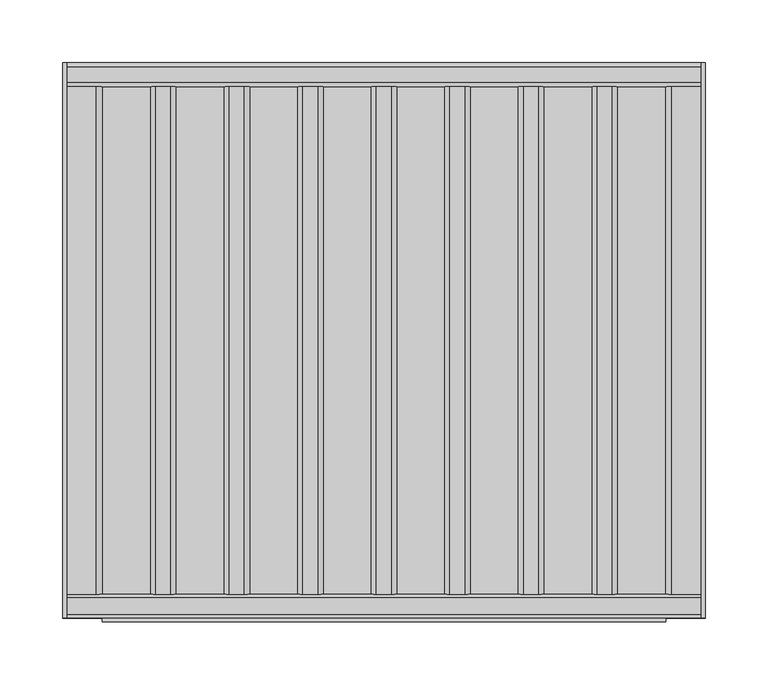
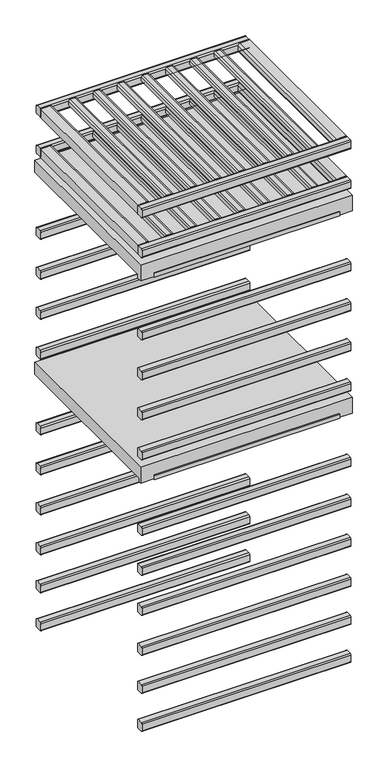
"""IFC4 building model written with IfcOpenShell, lengths in millimetres: proxy geometry, 11503620_USA_KWT2602SF : 36260215_USA_11503620_KWT2602SF."""

from ifc_helpers import new_model, si_unit, point, frame, frame_2d, origin, place, context, project, spatial, polyline, circle_curve, trimmed, segment, composite_curve, outline, extrude, faceted_brep, source, transform, mapped, element, save


def specialty_equipment_dd73f68f(model_context):
    return source(origin(), model_context, "Body", "SolidModel", [
        extrude(outline(composite_curve([segment(polyline([(1593.0, -252.0), (1571.0, -252.0), (1571.0, -229.0)]), True, "CONTINUOUS"), segment(trimmed(circle_curve(frame_2d((1576.0, -229.0)), 5.0), [point((1571.0, -229.0))], [point((1576.0, -224.0))], False, "CARTESIAN"), True, "CONTINUOUS"), segment(polyline([(1576.0, -224.0), (1588.0, -224.0)]), True, "CONTINUOUS"), segment(trimmed(circle_curve(frame_2d((1588.0, -229.0)), 5.0), [point((1588.0, -224.0))], [point((1593.0, -229.0))], False, "CARTESIAN"), True, "CONTINUOUS"), segment(polyline([(1593.0, -229.0), (1593.0, -252.0)]), True, "CONTINUOUS")], self_intersect=False)), frame((0.0, 90.0, 0.0), z_axis=(0.0, 1.0, 0.0), x_axis=(0.0, 0.0, 1.0)), (0.0, 0.0, 1.0), 404.0),
        extrude(outline(composite_curve([segment(polyline([(1589.0, -185.5), (1581.039218, -185.5), (1581.039218, -165.5), (1589.0, -165.5)]), True, "CONTINUOUS"), segment(trimmed(circle_curve(frame_2d((1589.0, -169.5)), 4.0), [point((1589.0, -165.5))], [point((1593.0, -169.5))], False, "CARTESIAN"), True, "CONTINUOUS"), segment(polyline([(1593.0, -169.5), (1593.0, -181.5)]), True, "CONTINUOUS"), segment(trimmed(circle_curve(frame_2d((1589.0, -181.5)), 4.0), [point((1593.0, -181.5))], [point((1589.0, -185.5))], False, "CARTESIAN"), True, "CONTINUOUS")], self_intersect=False)), frame((0.0, 90.0, 0.0), z_axis=(0.0, 1.0, 0.0), x_axis=(0.0, 0.0, 1.0)), (0.0, 0.0, 1.0), 404.0),
        extrude(outline(composite_curve([segment(polyline([(1593.0, 252.0), (1593.0, 229.0)]), True, "CONTINUOUS"), segment(trimmed(circle_curve(frame_2d((1588.0, 229.0)), 5.0), [point((1593.0, 229.0))], [point((1588.0, 224.0))], False, "CARTESIAN"), True, "CONTINUOUS"), segment(polyline([(1588.0, 224.0), (1576.0, 224.0)]), True, "CONTINUOUS"), segment(trimmed(circle_curve(frame_2d((1576.0, 229.0)), 5.0), [point((1576.0, 224.0))], [point((1571.0, 229.0))], False, "CARTESIAN"), True, "CONTINUOUS"), segment(polyline([(1571.0, 229.0), (1571.0, 252.0), (1593.0, 252.0)]), True, "CONTINUOUS")], self_intersect=False)), frame((0.0, 90.0, 0.0), z_axis=(0.0, 1.0, 0.0), x_axis=(0.0, 0.0, 1.0)), (0.0, 0.0, 1.0), 404.0),
        extrude(outline(composite_curve([segment(polyline([(1589.0, -127.0), (1581.039218, -127.0), (1581.039218, -107.0), (1589.0, -107.0)]), True, "CONTINUOUS"), segment(trimmed(circle_curve(frame_2d((1589.0, -111.0)), 4.0), [point((1589.0, -107.0))], [point((1593.0, -111.0))], False, "CARTESIAN"), True, "CONTINUOUS"), segment(polyline([(1593.0, -111.0), (1593.0, -123.0)]), True, "CONTINUOUS"), segment(trimmed(circle_curve(frame_2d((1589.0, -123.0)), 4.0), [point((1593.0, -123.0))], [point((1589.0, -127.0))], False, "CARTESIAN"), True, "CONTINUOUS")], self_intersect=False)), frame((0.0, 90.0, 0.0), z_axis=(0.0, 1.0, 0.0), x_axis=(0.0, 0.0, 1.0)), (0.0, 0.0, 1.0), 404.0),
        extrude(outline(composite_curve([segment(polyline([(1589.0, -68.5), (1581.039218, -68.5), (1581.039218, -48.5), (1589.0, -48.5)]), True, "CONTINUOUS"), segment(trimmed(circle_curve(frame_2d((1589.0, -52.5)), 4.0), [point((1589.0, -48.5))], [point((1593.0, -52.5))], False, "CARTESIAN"), True, "CONTINUOUS"), segment(polyline([(1593.0, -52.5), (1593.0, -64.5)]), True, "CONTINUOUS"), segment(trimmed(circle_curve(frame_2d((1589.0, -64.5)), 4.0), [point((1593.0, -64.5))], [point((1589.0, -68.5))], False, "CARTESIAN"), True, "CONTINUOUS")], self_intersect=False)), frame((0.0, 90.0, 0.0), z_axis=(0.0, 1.0, 0.0), x_axis=(0.0, 0.0, 1.0)), (0.0, 0.0, 1.0), 404.0),
        extrude(outline(composite_curve([segment(polyline([(1589.0, -10.0), (1581.039218, -10.0), (1581.039218, 10.0), (1589.0, 10.0)]), True, "CONTINUOUS"), segment(trimmed(circle_curve(frame_2d((1589.0, 6.0)), 4.0), [point((1589.0, 10.0))], [point((1593.0, 6.0))], False, "CARTESIAN"), True, "CONTINUOUS"), segment(polyline([(1593.0, 6.0), (1593.0, -6.0)]), True, "CONTINUOUS"), segment(trimmed(circle_curve(frame_2d((1589.0, -6.0)), 4.0), [point((1593.0, -6.0))], [point((1589.0, -10.0))], False, "CARTESIAN"), True, "CONTINUOUS")], self_intersect=False)), frame((0.0, 90.0, 0.0), z_axis=(0.0, 1.0, 0.0), x_axis=(0.0, 0.0, 1.0)), (0.0, 0.0, 1.0), 404.0),
        extrude(outline(composite_curve([segment(polyline([(1589.0, 48.5), (1581.039218, 48.5), (1581.039218, 68.5), (1589.0, 68.5)]), True, "CONTINUOUS"), segment(trimmed(circle_curve(frame_2d((1589.0, 64.5)), 4.0), [point((1589.0, 68.5))], [point((1593.0, 64.5))], False, "CARTESIAN"), True, "CONTINUOUS"), segment(polyline([(1593.0, 64.5), (1593.0, 52.5)]), True, "CONTINUOUS"), segment(trimmed(circle_curve(frame_2d((1589.0, 52.5)), 4.0), [point((1593.0, 52.5))], [point((1589.0, 48.5))], False, "CARTESIAN"), True, "CONTINUOUS")], self_intersect=False)), frame((0.0, 90.0, 0.0), z_axis=(0.0, 1.0, 0.0), x_axis=(0.0, 0.0, 1.0)), (0.0, 0.0, 1.0), 404.0),
        extrude(outline(composite_curve([segment(polyline([(1589.0, 107.0), (1581.039218, 107.0), (1581.039218, 127.0), (1589.0, 127.0)]), True, "CONTINUOUS"), segment(trimmed(circle_curve(frame_2d((1589.0, 123.0)), 4.0), [point((1589.0, 127.0))], [point((1593.0, 123.0))], False, "CARTESIAN"), True, "CONTINUOUS"), segment(polyline([(1593.0, 123.0), (1593.0, 111.0)]), True, "CONTINUOUS"), segment(trimmed(circle_curve(frame_2d((1589.0, 111.0)), 4.0), [point((1593.0, 111.0))], [point((1589.0, 107.0))], False, "CARTESIAN"), True, "CONTINUOUS")], self_intersect=False)), frame((0.0, 90.0, 0.0), z_axis=(0.0, 1.0, 0.0), x_axis=(0.0, 0.0, 1.0)), (0.0, 0.0, 1.0), 404.0),
        extrude(outline(composite_curve([segment(polyline([(1589.0, 165.5), (1581.039218, 165.5), (1581.039218, 185.5), (1589.0, 185.5)]), True, "CONTINUOUS"), segment(trimmed(circle_curve(frame_2d((1589.0, 181.5)), 4.0), [point((1589.0, 185.5))], [point((1593.0, 181.5))], False, "CARTESIAN"), True, "CONTINUOUS"), segment(polyline([(1593.0, 181.5), (1593.0, 169.5)]), True, "CONTINUOUS"), segment(trimmed(circle_curve(frame_2d((1589.0, 169.5)), 4.0), [point((1593.0, 169.5))], [point((1589.0, 165.5))], False, "CARTESIAN"), True, "CONTINUOUS")], self_intersect=False)), frame((0.0, 90.0, 0.0), z_axis=(0.0, 1.0, 0.0), x_axis=(0.0, 0.0, 1.0)), (0.0, 0.0, 1.0), 404.0),
        faceted_brep([(255.5, 76.0, 998.0), (255.5, 76.0, 1008.0), (255.5, 513.0, 1008.0), (255.5, 513.0, 1038.0), (255.5, 71.0, 1038.0), (255.5, 71.0, 998.0), (-255.5, 71.0, 998.0), (-255.5, 71.0, 1038.0), (-255.5, 513.0, 1038.0), (-255.5, 513.0, 1008.0), (-255.5, 76.0, 1008.0), (-255.5, 76.0, 998.0), (224.0, 71.0, 998.0), (224.0, 68.0, 998.0), (-224.0, 68.0, 998.0), (-224.0, 71.0, 998.0), (-224.0, 71.0, 1008.0), (224.0, 71.0, 1008.0), (-224.0, 68.0, 1008.0), (224.0, 68.0, 1008.0)], [[[0, 1, 2, 3, 4, 5]], [[6, 7, 8, 9, 10, 11]], [[11, 0, 5, 12, 13, 14, 15, 6]], [[1, 0, 11, 10]], [[2, 1, 10, 9]], [[3, 2, 9, 8]], [[7, 4, 3, 8]], [[6, 15, 16, 17, 12, 5, 4, 7]], [[17, 16, 18, 19]], [[14, 13, 19, 18]], [[16, 15, 14, 18]], [[12, 17, 19, 13]]]),
        faceted_brep([(255.5, 83.0, 1514.0), (255.5, 83.0, 1524.0), (255.5, 513.0, 1524.0), (255.5, 513.0, 1554.0), (255.5, 71.0, 1554.0), (255.5, 71.0, 1514.0), (-255.5, 71.0, 1514.0), (-255.5, 71.0, 1554.0), (-255.5, 513.0, 1554.0), (-255.5, 513.0, 1524.0), (-255.5, 83.0, 1524.0), (-255.5, 83.0, 1514.0), (224.0, 71.0, 1524.0), (224.0, 71.0, 1514.0), (-224.0, 71.0, 1514.0), (-224.0, 71.0, 1524.0), (224.0, 68.0, 1514.0), (-224.0, 68.0, 1514.0), (-224.0, 68.0, 1524.0), (224.0, 68.0, 1524.0)], [[[0, 1, 2, 3, 4, 5]], [[6, 7, 8, 9, 10, 11]], [[12, 13, 5, 4, 7, 6, 14, 15]], [[11, 0, 5, 13, 16, 17, 14, 6]], [[1, 0, 11, 10]], [[2, 1, 10, 9]], [[3, 2, 9, 8]], [[7, 4, 3, 8]], [[12, 15, 18, 19]], [[17, 16, 19, 18]], [[15, 14, 17, 18]], [[13, 12, 19, 16]]]),
        extrude(outline(composite_curve([segment(polyline([(74.0, 384.0), (87.0, 384.0)]), True, "CONTINUOUS"), segment(trimmed(circle_curve(frame_2d((87.0, 381.0)), 3.0), [point((87.0, 384.0))], [point((90.0, 381.0))], False, "CARTESIAN"), True, "CONTINUOUS"), segment(polyline([(90.0, 381.0), (90.0, 365.0)]), True, "CONTINUOUS"), segment(trimmed(circle_curve(frame_2d((87.0, 365.0)), 3.0), [point((90.0, 365.0))], [point((87.0, 362.0))], False, "CARTESIAN"), True, "CONTINUOUS"), segment(polyline([(87.0, 362.0), (74.0, 362.0)]), True, "CONTINUOUS"), segment(trimmed(circle_curve(frame_2d((74.0, 365.0)), 3.0), [point((74.0, 362.0))], [point((71.0, 365.0))], False, "CARTESIAN"), True, "CONTINUOUS"), segment(polyline([(71.0, 365.0), (71.0, 381.0)]), True, "CONTINUOUS"), segment(trimmed(circle_curve(frame_2d((74.0, 381.0)), 3.0), [point((71.0, 381.0))], [point((74.0, 384.0))], False, "CARTESIAN"), True, "CONTINUOUS")], self_intersect=False)), frame((-252.0, 0.0, 0.0), z_axis=(1.0, 0.0, 0.0), x_axis=(0.0, 1.0, 0.0)), (0.0, 0.0, 1.0), 504.0),
        extrude(outline(composite_curve([segment(polyline([(497.0, 384.0), (510.0, 384.0)]), True, "CONTINUOUS"), segment(trimmed(circle_curve(frame_2d((510.0, 381.0)), 3.0), [point((510.0, 384.0))], [point((513.0, 381.0))], False, "CARTESIAN"), True, "CONTINUOUS"), segment(polyline([(513.0, 381.0), (513.0, 365.0)]), True, "CONTINUOUS"), segment(trimmed(circle_curve(frame_2d((510.0, 365.0)), 3.0), [point((513.0, 365.0))], [point((510.0, 362.0))], False, "CARTESIAN"), True, "CONTINUOUS"), segment(polyline([(510.0, 362.0), (497.0, 362.0)]), True, "CONTINUOUS"), segment(trimmed(circle_curve(frame_2d((497.0, 365.0)), 3.0), [point((497.0, 362.0))], [point((494.0, 365.0))], False, "CARTESIAN"), True, "CONTINUOUS"), segment(polyline([(494.0, 365.0), (494.0, 381.0)]), True, "CONTINUOUS"), segment(trimmed(circle_curve(frame_2d((497.0, 381.0)), 3.0), [point((494.0, 381.0))], [point((497.0, 384.0))], False, "CARTESIAN"), True, "CONTINUOUS")], self_intersect=False)), frame((-252.0, 0.0, 0.0), z_axis=(1.0, 0.0, 0.0), x_axis=(0.0, 1.0, 0.0)), (0.0, 0.0, 1.0), 504.0),
        extrude(outline(composite_curve([segment(polyline([(74.0, 481.0), (87.0, 481.0)]), True, "CONTINUOUS"), segment(trimmed(circle_curve(frame_2d((87.0, 478.0)), 3.0), [point((87.0, 481.0))], [point((90.0, 478.0))], False, "CARTESIAN"), True, "CONTINUOUS"), segment(polyline([(90.0, 478.0), (90.0, 462.0)]), True, "CONTINUOUS"), segment(trimmed(circle_curve(frame_2d((87.0, 462.0)), 3.0), [point((90.0, 462.0))], [point((87.0, 459.0))], False, "CARTESIAN"), True, "CONTINUOUS"), segment(polyline([(87.0, 459.0), (74.0, 459.0)]), True, "CONTINUOUS"), segment(trimmed(circle_curve(frame_2d((74.0, 462.0)), 3.0), [point((74.0, 459.0))], [point((71.0, 462.0))], False, "CARTESIAN"), True, "CONTINUOUS"), segment(polyline([(71.0, 462.0), (71.0, 478.0)]), True, "CONTINUOUS"), segment(trimmed(circle_curve(frame_2d((74.0, 478.0)), 3.0), [point((71.0, 478.0))], [point((74.0, 481.0))], False, "CARTESIAN"), True, "CONTINUOUS")], self_intersect=False)), frame((-252.0, 0.0, 0.0), z_axis=(1.0, 0.0, 0.0), x_axis=(0.0, 1.0, 0.0)), (0.0, 0.0, 1.0), 504.0),
        extrude(outline(composite_curve([segment(polyline([(497.0, 481.0), (510.0, 481.0)]), True, "CONTINUOUS"), segment(trimmed(circle_curve(frame_2d((510.0, 478.0)), 3.0), [point((510.0, 481.0))], [point((513.0, 478.0))], False, "CARTESIAN"), True, "CONTINUOUS"), segment(polyline([(513.0, 478.0), (513.0, 462.0)]), True, "CONTINUOUS"), segment(trimmed(circle_curve(frame_2d((510.0, 462.0)), 3.0), [point((513.0, 462.0))], [point((510.0, 459.0))], False, "CARTESIAN"), True, "CONTINUOUS"), segment(polyline([(510.0, 459.0), (497.0, 459.0)]), True, "CONTINUOUS"), segment(trimmed(circle_curve(frame_2d((497.0, 462.0)), 3.0), [point((497.0, 459.0))], [point((494.0, 462.0))], False, "CARTESIAN"), True, "CONTINUOUS"), segment(polyline([(494.0, 462.0), (494.0, 478.0)]), True, "CONTINUOUS"), segment(trimmed(circle_curve(frame_2d((497.0, 478.0)), 3.0), [point((494.0, 478.0))], [point((497.0, 481.0))], False, "CARTESIAN"), True, "CONTINUOUS")], self_intersect=False)), frame((-252.0, 0.0, 0.0), z_axis=(1.0, 0.0, 0.0), x_axis=(0.0, 1.0, 0.0)), (0.0, 0.0, 1.0), 504.0),
        extrude(outline(composite_curve([segment(polyline([(74.0, 578.0), (87.0, 578.0)]), True, "CONTINUOUS"), segment(trimmed(circle_curve(frame_2d((87.0, 575.0)), 3.0), [point((87.0, 578.0))], [point((90.0, 575.0))], False, "CARTESIAN"), True, "CONTINUOUS"), segment(polyline([(90.0, 575.0), (90.0, 559.0)]), True, "CONTINUOUS"), segment(trimmed(circle_curve(frame_2d((87.0, 559.0)), 3.0), [point((90.0, 559.0))], [point((87.0, 556.0))], False, "CARTESIAN"), True, "CONTINUOUS"), segment(polyline([(87.0, 556.0), (74.0, 556.0)]), True, "CONTINUOUS"), segment(trimmed(circle_curve(frame_2d((74.0, 559.0)), 3.0), [point((74.0, 556.0))], [point((71.0, 559.0))], False, "CARTESIAN"), True, "CONTINUOUS"), segment(polyline([(71.0, 559.0), (71.0, 575.0)]), True, "CONTINUOUS"), segment(trimmed(circle_curve(frame_2d((74.0, 575.0)), 3.0), [point((71.0, 575.0))], [point((74.0, 578.0))], False, "CARTESIAN"), True, "CONTINUOUS")], self_intersect=False)), frame((-252.0, 0.0, 0.0), z_axis=(1.0, 0.0, 0.0), x_axis=(0.0, 1.0, 0.0)), (0.0, 0.0, 1.0), 504.0),
        extrude(outline(composite_curve([segment(polyline([(497.0, 578.0), (510.0, 578.0)]), True, "CONTINUOUS"), segment(trimmed(circle_curve(frame_2d((510.0, 575.0)), 3.0), [point((510.0, 578.0))], [point((513.0, 575.0))], False, "CARTESIAN"), True, "CONTINUOUS"), segment(polyline([(513.0, 575.0), (513.0, 559.0)]), True, "CONTINUOUS"), segment(trimmed(circle_curve(frame_2d((510.0, 559.0)), 3.0), [point((513.0, 559.0))], [point((510.0, 556.0))], False, "CARTESIAN"), True, "CONTINUOUS"), segment(polyline([(510.0, 556.0), (497.0, 556.0)]), True, "CONTINUOUS"), segment(trimmed(circle_curve(frame_2d((497.0, 559.0)), 3.0), [point((497.0, 556.0))], [point((494.0, 559.0))], False, "CARTESIAN"), True, "CONTINUOUS"), segment(polyline([(494.0, 559.0), (494.0, 575.0)]), True, "CONTINUOUS"), segment(trimmed(circle_curve(frame_2d((497.0, 575.0)), 3.0), [point((494.0, 575.0))], [point((497.0, 578.0))], False, "CARTESIAN"), True, "CONTINUOUS")], self_intersect=False)), frame((-252.0, 0.0, 0.0), z_axis=(1.0, 0.0, 0.0), x_axis=(0.0, 1.0, 0.0)), (0.0, 0.0, 1.0), 504.0),
        extrude(outline(composite_curve([segment(polyline([(74.0, 680.0), (87.0, 680.0)]), True, "CONTINUOUS"), segment(trimmed(circle_curve(frame_2d((87.0, 677.0)), 3.0), [point((87.0, 680.0))], [point((90.0, 677.0))], False, "CARTESIAN"), True, "CONTINUOUS"), segment(polyline([(90.0, 677.0), (90.0, 661.0)]), True, "CONTINUOUS"), segment(trimmed(circle_curve(frame_2d((87.0, 661.0)), 3.0), [point((90.0, 661.0))], [point((87.0, 658.0))], False, "CARTESIAN"), True, "CONTINUOUS"), segment(polyline([(87.0, 658.0), (74.0, 658.0)]), True, "CONTINUOUS"), segment(trimmed(circle_curve(frame_2d((74.0, 661.0)), 3.0), [point((74.0, 658.0))], [point((71.0, 661.0))], False, "CARTESIAN"), True, "CONTINUOUS"), segment(polyline([(71.0, 661.0), (71.0, 677.0)]), True, "CONTINUOUS"), segment(trimmed(circle_curve(frame_2d((74.0, 677.0)), 3.0), [point((71.0, 677.0))], [point((74.0, 680.0))], False, "CARTESIAN"), True, "CONTINUOUS")], self_intersect=False)), frame((-252.0, 0.0, 0.0), z_axis=(1.0, 0.0, 0.0), x_axis=(0.0, 1.0, 0.0)), (0.0, 0.0, 1.0), 504.0),
        extrude(outline(composite_curve([segment(polyline([(497.0, 680.0), (510.0, 680.0)]), True, "CONTINUOUS"), segment(trimmed(circle_curve(frame_2d((510.0, 677.0)), 3.0), [point((510.0, 680.0))], [point((513.0, 677.0))], False, "CARTESIAN"), True, "CONTINUOUS"), segment(polyline([(513.0, 677.0), (513.0, 661.0)]), True, "CONTINUOUS"), segment(trimmed(circle_curve(frame_2d((510.0, 661.0)), 3.0), [point((513.0, 661.0))], [point((510.0, 658.0))], False, "CARTESIAN"), True, "CONTINUOUS"), segment(polyline([(510.0, 658.0), (497.0, 658.0)]), True, "CONTINUOUS"), segment(trimmed(circle_curve(frame_2d((497.0, 661.0)), 3.0), [point((497.0, 658.0))], [point((494.0, 661.0))], False, "CARTESIAN"), True, "CONTINUOUS"), segment(polyline([(494.0, 661.0), (494.0, 677.0)]), True, "CONTINUOUS"), segment(trimmed(circle_curve(frame_2d((497.0, 677.0)), 3.0), [point((494.0, 677.0))], [point((497.0, 680.0))], False, "CARTESIAN"), True, "CONTINUOUS")], self_intersect=False)), frame((-252.0, 0.0, 0.0), z_axis=(1.0, 0.0, 0.0), x_axis=(0.0, 1.0, 0.0)), (0.0, 0.0, 1.0), 504.0),
        extrude(outline(composite_curve([segment(polyline([(74.0, 782.0), (87.0, 782.0)]), True, "CONTINUOUS"), segment(trimmed(circle_curve(frame_2d((87.0, 779.0)), 3.0), [point((87.0, 782.0))], [point((90.0, 779.0))], False, "CARTESIAN"), True, "CONTINUOUS"), segment(polyline([(90.0, 779.0), (90.0, 763.0)]), True, "CONTINUOUS"), segment(trimmed(circle_curve(frame_2d((87.0, 763.0)), 3.0), [point((90.0, 763.0))], [point((87.0, 760.0))], False, "CARTESIAN"), True, "CONTINUOUS"), segment(polyline([(87.0, 760.0), (74.0, 760.0)]), True, "CONTINUOUS"), segment(trimmed(circle_curve(frame_2d((74.0, 763.0)), 3.0), [point((74.0, 760.0))], [point((71.0, 763.0))], False, "CARTESIAN"), True, "CONTINUOUS"), segment(polyline([(71.0, 763.0), (71.0, 779.0)]), True, "CONTINUOUS"), segment(trimmed(circle_curve(frame_2d((74.0, 779.0)), 3.0), [point((71.0, 779.0))], [point((74.0, 782.0))], False, "CARTESIAN"), True, "CONTINUOUS")], self_intersect=False)), frame((-252.0, 0.0, 0.0), z_axis=(1.0, 0.0, 0.0), x_axis=(0.0, 1.0, 0.0)), (0.0, 0.0, 1.0), 504.0),
        extrude(outline(composite_curve([segment(polyline([(497.0, 782.0), (510.0, 782.0)]), True, "CONTINUOUS"), segment(trimmed(circle_curve(frame_2d((510.0, 779.0)), 3.0), [point((510.0, 782.0))], [point((513.0, 779.0))], False, "CARTESIAN"), True, "CONTINUOUS"), segment(polyline([(513.0, 779.0), (513.0, 763.0)]), True, "CONTINUOUS"), segment(trimmed(circle_curve(frame_2d((510.0, 763.0)), 3.0), [point((513.0, 763.0))], [point((510.0, 760.0))], False, "CARTESIAN"), True, "CONTINUOUS"), segment(polyline([(510.0, 760.0), (497.0, 760.0)]), True, "CONTINUOUS"), segment(trimmed(circle_curve(frame_2d((497.0, 763.0)), 3.0), [point((497.0, 760.0))], [point((494.0, 763.0))], False, "CARTESIAN"), True, "CONTINUOUS"), segment(polyline([(494.0, 763.0), (494.0, 779.0)]), True, "CONTINUOUS"), segment(trimmed(circle_curve(frame_2d((497.0, 779.0)), 3.0), [point((494.0, 779.0))], [point((497.0, 782.0))], False, "CARTESIAN"), True, "CONTINUOUS")], self_intersect=False)), frame((-252.0, 0.0, 0.0), z_axis=(1.0, 0.0, 0.0), x_axis=(0.0, 1.0, 0.0)), (0.0, 0.0, 1.0), 504.0),
        extrude(outline(composite_curve([segment(polyline([(74.0, 884.0), (87.0, 884.0)]), True, "CONTINUOUS"), segment(trimmed(circle_curve(frame_2d((87.0, 881.0)), 3.0), [point((87.0, 884.0))], [point((90.0, 881.0))], False, "CARTESIAN"), True, "CONTINUOUS"), segment(polyline([(90.0, 881.0), (90.0, 865.0)]), True, "CONTINUOUS"), segment(trimmed(circle_curve(frame_2d((87.0, 865.0)), 3.0), [point((90.0, 865.0))], [point((87.0, 862.0))], False, "CARTESIAN"), True, "CONTINUOUS"), segment(polyline([(87.0, 862.0), (74.0, 862.0)]), True, "CONTINUOUS"), segment(trimmed(circle_curve(frame_2d((74.0, 865.0)), 3.0), [point((74.0, 862.0))], [point((71.0, 865.0))], False, "CARTESIAN"), True, "CONTINUOUS"), segment(polyline([(71.0, 865.0), (71.0, 881.0)]), True, "CONTINUOUS"), segment(trimmed(circle_curve(frame_2d((74.0, 881.0)), 3.0), [point((71.0, 881.0))], [point((74.0, 884.0))], False, "CARTESIAN"), True, "CONTINUOUS")], self_intersect=False)), frame((-252.0, 0.0, 0.0), z_axis=(1.0, 0.0, 0.0), x_axis=(0.0, 1.0, 0.0)), (0.0, 0.0, 1.0), 504.0),
        extrude(outline(composite_curve([segment(polyline([(497.0, 884.0), (510.0, 884.0)]), True, "CONTINUOUS"), segment(trimmed(circle_curve(frame_2d((510.0, 881.0)), 3.0), [point((510.0, 884.0))], [point((513.0, 881.0))], False, "CARTESIAN"), True, "CONTINUOUS"), segment(polyline([(513.0, 881.0), (513.0, 865.0)]), True, "CONTINUOUS"), segment(trimmed(circle_curve(frame_2d((510.0, 865.0)), 3.0), [point((513.0, 865.0))], [point((510.0, 862.0))], False, "CARTESIAN"), True, "CONTINUOUS"), segment(polyline([(510.0, 862.0), (497.0, 862.0)]), True, "CONTINUOUS"), segment(trimmed(circle_curve(frame_2d((497.0, 865.0)), 3.0), [point((497.0, 862.0))], [point((494.0, 865.0))], False, "CARTESIAN"), True, "CONTINUOUS"), segment(polyline([(494.0, 865.0), (494.0, 881.0)]), True, "CONTINUOUS"), segment(trimmed(circle_curve(frame_2d((497.0, 881.0)), 3.0), [point((494.0, 881.0))], [point((497.0, 884.0))], False, "CARTESIAN"), True, "CONTINUOUS")], self_intersect=False)), frame((-252.0, 0.0, 0.0), z_axis=(1.0, 0.0, 0.0), x_axis=(0.0, 1.0, 0.0)), (0.0, 0.0, 1.0), 504.0),
        extrude(outline(composite_curve([segment(polyline([(74.0, 1077.0), (87.0, 1077.0)]), True, "CONTINUOUS"), segment(trimmed(circle_curve(frame_2d((87.0, 1074.0)), 3.0), [point((87.0, 1077.0))], [point((90.0, 1074.0))], False, "CARTESIAN"), True, "CONTINUOUS"), segment(polyline([(90.0, 1074.0), (90.0, 1058.0)]), True, "CONTINUOUS"), segment(trimmed(circle_curve(frame_2d((87.0, 1058.0)), 3.0), [point((90.0, 1058.0))], [point((87.0, 1055.0))], False, "CARTESIAN"), True, "CONTINUOUS"), segment(polyline([(87.0, 1055.0), (74.0, 1055.0)]), True, "CONTINUOUS"), segment(trimmed(circle_curve(frame_2d((74.0, 1058.0)), 3.0), [point((74.0, 1055.0))], [point((71.0, 1058.0))], False, "CARTESIAN"), True, "CONTINUOUS"), segment(polyline([(71.0, 1058.0), (71.0, 1074.0)]), True, "CONTINUOUS"), segment(trimmed(circle_curve(frame_2d((74.0, 1074.0)), 3.0), [point((71.0, 1074.0))], [point((74.0, 1077.0))], False, "CARTESIAN"), True, "CONTINUOUS")], self_intersect=False)), frame((-252.0, 0.0, 0.0), z_axis=(1.0, 0.0, 0.0), x_axis=(0.0, 1.0, 0.0)), (0.0, 0.0, 1.0), 504.0),
        extrude(outline(composite_curve([segment(polyline([(497.0, 1077.0), (510.0, 1077.0)]), True, "CONTINUOUS"), segment(trimmed(circle_curve(frame_2d((510.0, 1074.0)), 3.0), [point((510.0, 1077.0))], [point((513.0, 1074.0))], False, "CARTESIAN"), True, "CONTINUOUS"), segment(polyline([(513.0, 1074.0), (513.0, 1058.0)]), True, "CONTINUOUS"), segment(trimmed(circle_curve(frame_2d((510.0, 1058.0)), 3.0), [point((513.0, 1058.0))], [point((510.0, 1055.0))], False, "CARTESIAN"), True, "CONTINUOUS"), segment(polyline([(510.0, 1055.0), (497.0, 1055.0)]), True, "CONTINUOUS"), segment(trimmed(circle_curve(frame_2d((497.0, 1058.0)), 3.0), [point((497.0, 1055.0))], [point((494.0, 1058.0))], False, "CARTESIAN"), True, "CONTINUOUS"), segment(polyline([(494.0, 1058.0), (494.0, 1074.0)]), True, "CONTINUOUS"), segment(trimmed(circle_curve(frame_2d((497.0, 1074.0)), 3.0), [point((494.0, 1074.0))], [point((497.0, 1077.0))], False, "CARTESIAN"), True, "CONTINUOUS")], self_intersect=False)), frame((-252.0, 0.0, 0.0), z_axis=(1.0, 0.0, 0.0), x_axis=(0.0, 1.0, 0.0)), (0.0, 0.0, 1.0), 504.0),
        extrude(outline(composite_curve([segment(polyline([(74.0, 1179.0), (87.0, 1179.0)]), True, "CONTINUOUS"), segment(trimmed(circle_curve(frame_2d((87.0, 1176.0)), 3.0), [point((87.0, 1179.0))], [point((90.0, 1176.0))], False, "CARTESIAN"), True, "CONTINUOUS"), segment(polyline([(90.0, 1176.0), (90.0, 1160.0)]), True, "CONTINUOUS"), segment(trimmed(circle_curve(frame_2d((87.0, 1160.0)), 3.0), [point((90.0, 1160.0))], [point((87.0, 1157.0))], False, "CARTESIAN"), True, "CONTINUOUS"), segment(polyline([(87.0, 1157.0), (74.0, 1157.0)]), True, "CONTINUOUS"), segment(trimmed(circle_curve(frame_2d((74.0, 1160.0)), 3.0), [point((74.0, 1157.0))], [point((71.0, 1160.0))], False, "CARTESIAN"), True, "CONTINUOUS"), segment(polyline([(71.0, 1160.0), (71.0, 1176.0)]), True, "CONTINUOUS"), segment(trimmed(circle_curve(frame_2d((74.0, 1176.0)), 3.0), [point((71.0, 1176.0))], [point((74.0, 1179.0))], False, "CARTESIAN"), True, "CONTINUOUS")], self_intersect=False)), frame((-252.0, 0.0, 0.0), z_axis=(1.0, 0.0, 0.0), x_axis=(0.0, 1.0, 0.0)), (0.0, 0.0, 1.0), 504.0),
        extrude(outline(composite_curve([segment(polyline([(497.0, 1179.0), (510.0, 1179.0)]), True, "CONTINUOUS"), segment(trimmed(circle_curve(frame_2d((510.0, 1176.0)), 3.0), [point((510.0, 1179.0))], [point((513.0, 1176.0))], False, "CARTESIAN"), True, "CONTINUOUS"), segment(polyline([(513.0, 1176.0), (513.0, 1160.0)]), True, "CONTINUOUS"), segment(trimmed(circle_curve(frame_2d((510.0, 1160.0)), 3.0), [point((513.0, 1160.0))], [point((510.0, 1157.0))], False, "CARTESIAN"), True, "CONTINUOUS"), segment(polyline([(510.0, 1157.0), (497.0, 1157.0)]), True, "CONTINUOUS"), segment(trimmed(circle_curve(frame_2d((497.0, 1160.0)), 3.0), [point((497.0, 1157.0))], [point((494.0, 1160.0))], False, "CARTESIAN"), True, "CONTINUOUS"), segment(polyline([(494.0, 1160.0), (494.0, 1176.0)]), True, "CONTINUOUS"), segment(trimmed(circle_curve(frame_2d((497.0, 1176.0)), 3.0), [point((494.0, 1176.0))], [point((497.0, 1179.0))], False, "CARTESIAN"), True, "CONTINUOUS")], self_intersect=False)), frame((-252.0, 0.0, 0.0), z_axis=(1.0, 0.0, 0.0), x_axis=(0.0, 1.0, 0.0)), (0.0, 0.0, 1.0), 504.0),
        extrude(outline(composite_curve([segment(polyline([(74.0, 1281.0), (87.0, 1281.0)]), True, "CONTINUOUS"), segment(trimmed(circle_curve(frame_2d((87.0, 1278.0)), 3.0), [point((87.0, 1281.0))], [point((90.0, 1278.0))], False, "CARTESIAN"), True, "CONTINUOUS"), segment(polyline([(90.0, 1278.0), (90.0, 1262.0)]), True, "CONTINUOUS"), segment(trimmed(circle_curve(frame_2d((87.0, 1262.0)), 3.0), [point((90.0, 1262.0))], [point((87.0, 1259.0))], False, "CARTESIAN"), True, "CONTINUOUS"), segment(polyline([(87.0, 1259.0), (74.0, 1259.0)]), True, "CONTINUOUS"), segment(trimmed(circle_curve(frame_2d((74.0, 1262.0)), 3.0), [point((74.0, 1259.0))], [point((71.0, 1262.0))], False, "CARTESIAN"), True, "CONTINUOUS"), segment(polyline([(71.0, 1262.0), (71.0, 1278.0)]), True, "CONTINUOUS"), segment(trimmed(circle_curve(frame_2d((74.0, 1278.0)), 3.0), [point((71.0, 1278.0))], [point((74.0, 1281.0))], False, "CARTESIAN"), True, "CONTINUOUS")], self_intersect=False)), frame((-252.0, 0.0, 0.0), z_axis=(1.0, 0.0, 0.0), x_axis=(0.0, 1.0, 0.0)), (0.0, 0.0, 1.0), 504.0),
        extrude(outline(composite_curve([segment(polyline([(497.0, 1281.0), (510.0, 1281.0)]), True, "CONTINUOUS"), segment(trimmed(circle_curve(frame_2d((510.0, 1278.0)), 3.0), [point((510.0, 1281.0))], [point((513.0, 1278.0))], False, "CARTESIAN"), True, "CONTINUOUS"), segment(polyline([(513.0, 1278.0), (513.0, 1262.0)]), True, "CONTINUOUS"), segment(trimmed(circle_curve(frame_2d((510.0, 1262.0)), 3.0), [point((513.0, 1262.0))], [point((510.0, 1259.0))], False, "CARTESIAN"), True, "CONTINUOUS"), segment(polyline([(510.0, 1259.0), (497.0, 1259.0)]), True, "CONTINUOUS"), segment(trimmed(circle_curve(frame_2d((497.0, 1262.0)), 3.0), [point((497.0, 1259.0))], [point((494.0, 1262.0))], False, "CARTESIAN"), True, "CONTINUOUS"), segment(polyline([(494.0, 1262.0), (494.0, 1278.0)]), True, "CONTINUOUS"), segment(trimmed(circle_curve(frame_2d((497.0, 1278.0)), 3.0), [point((494.0, 1278.0))], [point((497.0, 1281.0))], False, "CARTESIAN"), True, "CONTINUOUS")], self_intersect=False)), frame((-252.0, 0.0, 0.0), z_axis=(1.0, 0.0, 0.0), x_axis=(0.0, 1.0, 0.0)), (0.0, 0.0, 1.0), 504.0),
        extrude(outline(composite_curve([segment(polyline([(74.0, 1383.0), (87.0, 1383.0)]), True, "CONTINUOUS"), segment(trimmed(circle_curve(frame_2d((87.0, 1380.0)), 3.0), [point((87.0, 1383.0))], [point((90.0, 1380.0))], False, "CARTESIAN"), True, "CONTINUOUS"), segment(polyline([(90.0, 1380.0), (90.0, 1364.0)]), True, "CONTINUOUS"), segment(trimmed(circle_curve(frame_2d((87.0, 1364.0)), 3.0), [point((90.0, 1364.0))], [point((87.0, 1361.0))], False, "CARTESIAN"), True, "CONTINUOUS"), segment(polyline([(87.0, 1361.0), (74.0, 1361.0)]), True, "CONTINUOUS"), segment(trimmed(circle_curve(frame_2d((74.0, 1364.0)), 3.0), [point((74.0, 1361.0))], [point((71.0, 1364.0))], False, "CARTESIAN"), True, "CONTINUOUS"), segment(polyline([(71.0, 1364.0), (71.0, 1380.0)]), True, "CONTINUOUS"), segment(trimmed(circle_curve(frame_2d((74.0, 1380.0)), 3.0), [point((71.0, 1380.0))], [point((74.0, 1383.0))], False, "CARTESIAN"), True, "CONTINUOUS")], self_intersect=False)), frame((-252.0, 0.0, 0.0), z_axis=(1.0, 0.0, 0.0), x_axis=(0.0, 1.0, 0.0)), (0.0, 0.0, 1.0), 504.0),
        extrude(outline(composite_curve([segment(polyline([(497.0, 1383.0), (510.0, 1383.0)]), True, "CONTINUOUS"), segment(trimmed(circle_curve(frame_2d((510.0, 1380.0)), 3.0), [point((510.0, 1383.0))], [point((513.0, 1380.0))], False, "CARTESIAN"), True, "CONTINUOUS"), segment(polyline([(513.0, 1380.0), (513.0, 1364.0)]), True, "CONTINUOUS"), segment(trimmed(circle_curve(frame_2d((510.0, 1364.0)), 3.0), [point((513.0, 1364.0))], [point((510.0, 1361.0))], False, "CARTESIAN"), True, "CONTINUOUS"), segment(polyline([(510.0, 1361.0), (497.0, 1361.0)]), True, "CONTINUOUS"), segment(trimmed(circle_curve(frame_2d((497.0, 1364.0)), 3.0), [point((497.0, 1361.0))], [point((494.0, 1364.0))], False, "CARTESIAN"), True, "CONTINUOUS"), segment(polyline([(494.0, 1364.0), (494.0, 1380.0)]), True, "CONTINUOUS"), segment(trimmed(circle_curve(frame_2d((497.0, 1380.0)), 3.0), [point((494.0, 1380.0))], [point((497.0, 1383.0))], False, "CARTESIAN"), True, "CONTINUOUS")], self_intersect=False)), frame((-252.0, 0.0, 0.0), z_axis=(1.0, 0.0, 0.0), x_axis=(0.0, 1.0, 0.0)), (0.0, 0.0, 1.0), 504.0),
        extrude(outline(composite_curve([segment(polyline([(74.0, 1593.0), (87.0, 1593.0)]), True, "CONTINUOUS"), segment(trimmed(circle_curve(frame_2d((87.0, 1590.0)), 3.0), [point((87.0, 1593.0))], [point((90.0, 1590.0))], False, "CARTESIAN"), True, "CONTINUOUS"), segment(polyline([(90.0, 1590.0), (90.0, 1574.0)]), True, "CONTINUOUS"), segment(trimmed(circle_curve(frame_2d((87.0, 1574.0)), 3.0), [point((90.0, 1574.0))], [point((87.0, 1571.0))], False, "CARTESIAN"), True, "CONTINUOUS"), segment(polyline([(87.0, 1571.0), (74.0, 1571.0)]), True, "CONTINUOUS"), segment(trimmed(circle_curve(frame_2d((74.0, 1574.0)), 3.0), [point((74.0, 1571.0))], [point((71.0, 1574.0))], False, "CARTESIAN"), True, "CONTINUOUS"), segment(polyline([(71.0, 1574.0), (71.0, 1590.0)]), True, "CONTINUOUS"), segment(trimmed(circle_curve(frame_2d((74.0, 1590.0)), 3.0), [point((71.0, 1590.0))], [point((74.0, 1593.0))], False, "CARTESIAN"), True, "CONTINUOUS")], self_intersect=False)), frame((-252.0, 0.0, 0.0), z_axis=(1.0, 0.0, 0.0), x_axis=(0.0, 1.0, 0.0)), (0.0, 0.0, 1.0), 504.0),
        extrude(outline(composite_curve([segment(polyline([(497.0, 1593.0), (510.0, 1593.0)]), True, "CONTINUOUS"), segment(trimmed(circle_curve(frame_2d((510.0, 1590.0)), 3.0), [point((510.0, 1593.0))], [point((513.0, 1590.0))], False, "CARTESIAN"), True, "CONTINUOUS"), segment(polyline([(513.0, 1590.0), (513.0, 1574.0)]), True, "CONTINUOUS"), segment(trimmed(circle_curve(frame_2d((510.0, 1574.0)), 3.0), [point((513.0, 1574.0))], [point((510.0, 1571.0))], False, "CARTESIAN"), True, "CONTINUOUS"), segment(polyline([(510.0, 1571.0), (497.0, 1571.0)]), True, "CONTINUOUS"), segment(trimmed(circle_curve(frame_2d((497.0, 1574.0)), 3.0), [point((497.0, 1571.0))], [point((494.0, 1574.0))], False, "CARTESIAN"), True, "CONTINUOUS"), segment(polyline([(494.0, 1574.0), (494.0, 1590.0)]), True, "CONTINUOUS"), segment(trimmed(circle_curve(frame_2d((497.0, 1590.0)), 3.0), [point((494.0, 1590.0))], [point((497.0, 1593.0))], False, "CARTESIAN"), True, "CONTINUOUS")], self_intersect=False)), frame((-252.0, 0.0, 0.0), z_axis=(1.0, 0.0, 0.0), x_axis=(0.0, 1.0, 0.0)), (0.0, 0.0, 1.0), 504.0),
        extrude(outline(composite_curve([segment(polyline([(74.0, 1695.0), (87.0, 1695.0)]), True, "CONTINUOUS"), segment(trimmed(circle_curve(frame_2d((87.0, 1692.0)), 3.0), [point((87.0, 1695.0))], [point((90.0, 1692.0))], False, "CARTESIAN"), True, "CONTINUOUS"), segment(polyline([(90.0, 1692.0), (90.0, 1676.0)]), True, "CONTINUOUS"), segment(trimmed(circle_curve(frame_2d((87.0, 1676.0)), 3.0), [point((90.0, 1676.0))], [point((87.0, 1673.0))], False, "CARTESIAN"), True, "CONTINUOUS"), segment(polyline([(87.0, 1673.0), (74.0, 1673.0)]), True, "CONTINUOUS"), segment(trimmed(circle_curve(frame_2d((74.0, 1676.0)), 3.0), [point((74.0, 1673.0))], [point((71.0, 1676.0))], False, "CARTESIAN"), True, "CONTINUOUS"), segment(polyline([(71.0, 1676.0), (71.0, 1692.0)]), True, "CONTINUOUS"), segment(trimmed(circle_curve(frame_2d((74.0, 1692.0)), 3.0), [point((71.0, 1692.0))], [point((74.0, 1695.0))], False, "CARTESIAN"), True, "CONTINUOUS")], self_intersect=False)), frame((-252.0, 0.0, 0.0), z_axis=(1.0, 0.0, 0.0), x_axis=(0.0, 1.0, 0.0)), (0.0, 0.0, 1.0), 504.0),
        extrude(outline(composite_curve([segment(polyline([(497.0, 1695.0), (510.0, 1695.0)]), True, "CONTINUOUS"), segment(trimmed(circle_curve(frame_2d((510.0, 1692.0)), 3.0), [point((510.0, 1695.0))], [point((513.0, 1692.0))], False, "CARTESIAN"), True, "CONTINUOUS"), segment(polyline([(513.0, 1692.0), (513.0, 1676.0)]), True, "CONTINUOUS"), segment(trimmed(circle_curve(frame_2d((510.0, 1676.0)), 3.0), [point((513.0, 1676.0))], [point((510.0, 1673.0))], False, "CARTESIAN"), True, "CONTINUOUS"), segment(polyline([(510.0, 1673.0), (497.0, 1673.0)]), True, "CONTINUOUS"), segment(trimmed(circle_curve(frame_2d((497.0, 1676.0)), 3.0), [point((497.0, 1673.0))], [point((494.0, 1676.0))], False, "CARTESIAN"), True, "CONTINUOUS"), segment(polyline([(494.0, 1676.0), (494.0, 1692.0)]), True, "CONTINUOUS"), segment(trimmed(circle_curve(frame_2d((497.0, 1692.0)), 3.0), [point((494.0, 1692.0))], [point((497.0, 1695.0))], False, "CARTESIAN"), True, "CONTINUOUS")], self_intersect=False)), frame((-252.0, 0.0, 0.0), z_axis=(1.0, 0.0, 0.0), x_axis=(0.0, 1.0, 0.0)), (0.0, 0.0, 1.0), 504.0),
        extrude(outline(composite_curve([segment(polyline([(1695.0, -252.0), (1673.0, -252.0), (1673.0, -229.0)]), True, "CONTINUOUS"), segment(trimmed(circle_curve(frame_2d((1678.0, -229.0)), 5.0), [point((1673.0, -229.0))], [point((1678.0, -224.0))], False, "CARTESIAN"), True, "CONTINUOUS"), segment(polyline([(1678.0, -224.0), (1690.0, -224.0)]), True, "CONTINUOUS"), segment(trimmed(circle_curve(frame_2d((1690.0, -229.0)), 5.0), [point((1690.0, -224.0))], [point((1695.0, -229.0))], False, "CARTESIAN"), True, "CONTINUOUS"), segment(polyline([(1695.0, -229.0), (1695.0, -252.0)]), True, "CONTINUOUS")], self_intersect=False)), frame((0.0, 90.0, 0.0), z_axis=(0.0, 1.0, 0.0), x_axis=(0.0, 0.0, 1.0)), (0.0, 0.0, 1.0), 404.0),
        extrude(outline(composite_curve([segment(polyline([(1691.0, -185.5), (1683.039218, -185.5), (1683.039218, -165.5), (1691.0, -165.5)]), True, "CONTINUOUS"), segment(trimmed(circle_curve(frame_2d((1691.0, -169.5)), 4.0), [point((1691.0, -165.5))], [point((1695.0, -169.5))], False, "CARTESIAN"), True, "CONTINUOUS"), segment(polyline([(1695.0, -169.5), (1695.0, -181.5)]), True, "CONTINUOUS"), segment(trimmed(circle_curve(frame_2d((1691.0, -181.5)), 4.0), [point((1695.0, -181.5))], [point((1691.0, -185.5))], False, "CARTESIAN"), True, "CONTINUOUS")], self_intersect=False)), frame((0.0, 90.0, 0.0), z_axis=(0.0, 1.0, 0.0), x_axis=(0.0, 0.0, 1.0)), (0.0, 0.0, 1.0), 404.0),
        extrude(outline(composite_curve([segment(polyline([(1695.0, 252.0), (1695.0, 229.0)]), True, "CONTINUOUS"), segment(trimmed(circle_curve(frame_2d((1690.0, 229.0)), 5.0), [point((1695.0, 229.0))], [point((1690.0, 224.0))], False, "CARTESIAN"), True, "CONTINUOUS"), segment(polyline([(1690.0, 224.0), (1678.0, 224.0)]), True, "CONTINUOUS"), segment(trimmed(circle_curve(frame_2d((1678.0, 229.0)), 5.0), [point((1678.0, 224.0))], [point((1673.0, 229.0))], False, "CARTESIAN"), True, "CONTINUOUS"), segment(polyline([(1673.0, 229.0), (1673.0, 252.0), (1695.0, 252.0)]), True, "CONTINUOUS")], self_intersect=False)), frame((0.0, 90.0, 0.0), z_axis=(0.0, 1.0, 0.0), x_axis=(0.0, 0.0, 1.0)), (0.0, 0.0, 1.0), 404.0),
        extrude(outline(composite_curve([segment(polyline([(1691.0, -127.0), (1683.039218, -127.0), (1683.039218, -107.0), (1691.0, -107.0)]), True, "CONTINUOUS"), segment(trimmed(circle_curve(frame_2d((1691.0, -111.0)), 4.0), [point((1691.0, -107.0))], [point((1695.0, -111.0))], False, "CARTESIAN"), True, "CONTINUOUS"), segment(polyline([(1695.0, -111.0), (1695.0, -123.0)]), True, "CONTINUOUS"), segment(trimmed(circle_curve(frame_2d((1691.0, -123.0)), 4.0), [point((1695.0, -123.0))], [point((1691.0, -127.0))], False, "CARTESIAN"), True, "CONTINUOUS")], self_intersect=False)), frame((0.0, 90.0, 0.0), z_axis=(0.0, 1.0, 0.0), x_axis=(0.0, 0.0, 1.0)), (0.0, 0.0, 1.0), 404.0),
        extrude(outline(composite_curve([segment(polyline([(1691.0, -68.5), (1683.039218, -68.5), (1683.039218, -48.5), (1691.0, -48.5)]), True, "CONTINUOUS"), segment(trimmed(circle_curve(frame_2d((1691.0, -52.5)), 4.0), [point((1691.0, -48.5))], [point((1695.0, -52.5))], False, "CARTESIAN"), True, "CONTINUOUS"), segment(polyline([(1695.0, -52.5), (1695.0, -64.5)]), True, "CONTINUOUS"), segment(trimmed(circle_curve(frame_2d((1691.0, -64.5)), 4.0), [point((1695.0, -64.5))], [point((1691.0, -68.5))], False, "CARTESIAN"), True, "CONTINUOUS")], self_intersect=False)), frame((0.0, 90.0, 0.0), z_axis=(0.0, 1.0, 0.0), x_axis=(0.0, 0.0, 1.0)), (0.0, 0.0, 1.0), 404.0),
        extrude(outline(composite_curve([segment(polyline([(1691.0, -10.0), (1683.039218, -10.0), (1683.039218, 10.0), (1691.0, 10.0)]), True, "CONTINUOUS"), segment(trimmed(circle_curve(frame_2d((1691.0, 6.0)), 4.0), [point((1691.0, 10.0))], [point((1695.0, 6.0))], False, "CARTESIAN"), True, "CONTINUOUS"), segment(polyline([(1695.0, 6.0), (1695.0, -6.0)]), True, "CONTINUOUS"), segment(trimmed(circle_curve(frame_2d((1691.0, -6.0)), 4.0), [point((1695.0, -6.0))], [point((1691.0, -10.0))], False, "CARTESIAN"), True, "CONTINUOUS")], self_intersect=False)), frame((0.0, 90.0, 0.0), z_axis=(0.0, 1.0, 0.0), x_axis=(0.0, 0.0, 1.0)), (0.0, 0.0, 1.0), 404.0),
        extrude(outline(composite_curve([segment(polyline([(1691.0, 48.5), (1683.039218, 48.5), (1683.039218, 68.5), (1691.0, 68.5)]), True, "CONTINUOUS"), segment(trimmed(circle_curve(frame_2d((1691.0, 64.5)), 4.0), [point((1691.0, 68.5))], [point((1695.0, 64.5))], False, "CARTESIAN"), True, "CONTINUOUS"), segment(polyline([(1695.0, 64.5), (1695.0, 52.5)]), True, "CONTINUOUS"), segment(trimmed(circle_curve(frame_2d((1691.0, 52.5)), 4.0), [point((1695.0, 52.5))], [point((1691.0, 48.5))], False, "CARTESIAN"), True, "CONTINUOUS")], self_intersect=False)), frame((0.0, 90.0, 0.0), z_axis=(0.0, 1.0, 0.0), x_axis=(0.0, 0.0, 1.0)), (0.0, 0.0, 1.0), 404.0),
        extrude(outline(composite_curve([segment(polyline([(1691.0, 107.0), (1683.039218, 107.0), (1683.039218, 127.0), (1691.0, 127.0)]), True, "CONTINUOUS"), segment(trimmed(circle_curve(frame_2d((1691.0, 123.0)), 4.0), [point((1691.0, 127.0))], [point((1695.0, 123.0))], False, "CARTESIAN"), True, "CONTINUOUS"), segment(polyline([(1695.0, 123.0), (1695.0, 111.0)]), True, "CONTINUOUS"), segment(trimmed(circle_curve(frame_2d((1691.0, 111.0)), 4.0), [point((1695.0, 111.0))], [point((1691.0, 107.0))], False, "CARTESIAN"), True, "CONTINUOUS")], self_intersect=False)), frame((0.0, 90.0, 0.0), z_axis=(0.0, 1.0, 0.0), x_axis=(0.0, 0.0, 1.0)), (0.0, 0.0, 1.0), 404.0),
        extrude(outline(composite_curve([segment(polyline([(1691.0, 165.5), (1683.039218, 165.5), (1683.039218, 185.5), (1691.0, 185.5)]), True, "CONTINUOUS"), segment(trimmed(circle_curve(frame_2d((1691.0, 181.5)), 4.0), [point((1691.0, 185.5))], [point((1695.0, 181.5))], False, "CARTESIAN"), True, "CONTINUOUS"), segment(polyline([(1695.0, 181.5), (1695.0, 169.5)]), True, "CONTINUOUS"), segment(trimmed(circle_curve(frame_2d((1691.0, 169.5)), 4.0), [point((1695.0, 169.5))], [point((1691.0, 165.5))], False, "CARTESIAN"), True, "CONTINUOUS")], self_intersect=False)), frame((0.0, 90.0, 0.0), z_axis=(0.0, 1.0, 0.0), x_axis=(0.0, 0.0, 1.0)), (0.0, 0.0, 1.0), 404.0),
    ])


if __name__ == "__main__":
    model = new_model("IFC4")
    model_context = context("Model", 3, world=origin())
    ifc_project = project(units=[si_unit("LENGTHUNIT", "METRE", prefix="MILLI")], contexts=[model_context])
    site = spatial("IfcSite", under=ifc_project)
    building = spatial("IfcBuilding", under=site)
    placement = place(None, origin())
    specialty_equipment_shape = specialty_equipment_dd73f68f(model_context)
    element("IfcBuildingElementProxy", 1, Name="11503620_USA_KWT2602SF : 36260215_USA_11503620_KWT2602SF", ObjectType="11503620_USA_KWT2602SF : 36260215_USA_11503620_KWT2602SF", at=placement, inside=building, context=model_context, shape_type="MappedRepresentation", body=[
        mapped(specialty_equipment_shape, transform((0.0, 0.0, 0.0), x_axis=(1.0, 0.0, 0.0), y_axis=(0.0, 1.0, 0.0), z_axis=(0.0, 0.0, 1.0))),
    ])
    save(model, "model.ifc")
